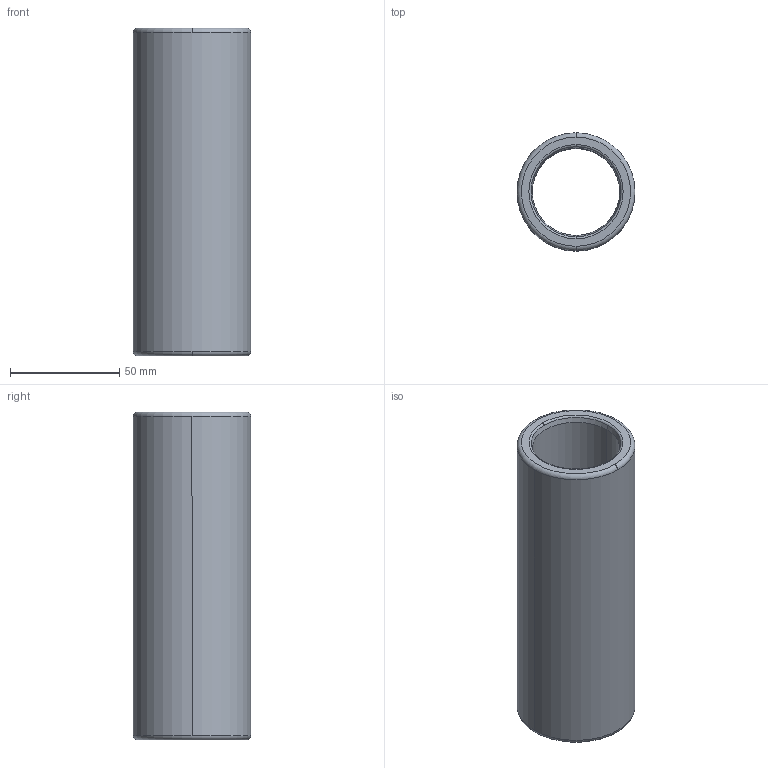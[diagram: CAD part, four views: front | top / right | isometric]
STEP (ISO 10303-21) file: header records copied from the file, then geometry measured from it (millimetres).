
FILE_DESCRIPTION((''),'2;1');
FILE_NAME('B30_032_150.stp','2009-01-12T10:29:27',(''),(''),'Mechanical Desktop 2009','Mechanical Desktop 2009',', , ');
FILE_SCHEMA(('CONFIG_CONTROL_DESIGN'));
Length unit declared in the file: millimetre
Products named in the file (2): Product; blmdl1
Assembly tree (1 placements, depth 2):
  Product
    blmdl1
Bounding box: 53.99 x 53.99 x 150 mm (x, y, z)
Volume: 154558.7 mm3; surface area: 45824.7 mm2
Topology: 1 solids, 1 shells, 18 faces, 48 edges, 32 vertices
Faces by surface type: torus 8, cylinder 4, cone 4, plane 2
Entity records: 705 total; most frequent: DIRECTION 128, CARTESIAN_POINT 100, ORIENTED_EDGE 96, AXIS2_PLACEMENT_3D 60, EDGE_CURVE 48, CIRCLE 40, VERTEX_POINT 32, EDGE_LOOP 20
